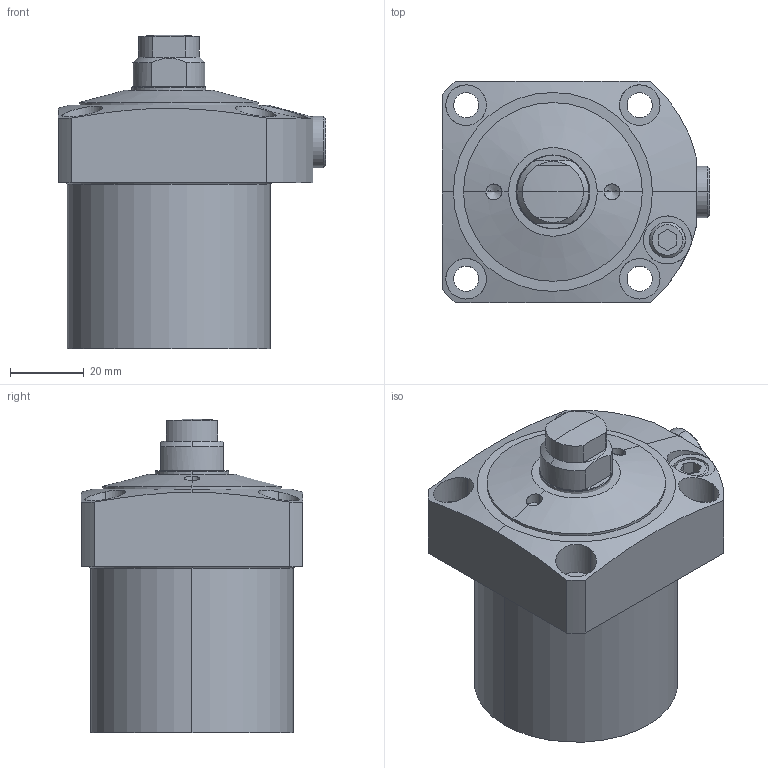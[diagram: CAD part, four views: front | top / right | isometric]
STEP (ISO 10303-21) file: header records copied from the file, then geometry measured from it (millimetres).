
FILE_DESCRIPTION(/* description */ (''),/* implementation_level */ '2;1');
FILE_NAME(/* name */ 'KFSC55.stp',/* time_stamp */ '2022-11-16T16:34:55+08:00',/* author */ (''),/* organization */ (''),/* preprocessor_version */ 'ST-DEVELOPER v16.7',/* originating_system */ 'SIEMENS PLM Software NX 12.0',/* authorisation */ '');
FILE_SCHEMA (('AP203_CONFIGURATION_CONTROLLED_3D_DESIGN_OF_MECHANICAL_PARTS_AND_ASSEMBLIES_MIM_LF { 1 0 10303 403 2 1 2}'));
Length unit declared in the file: millimetre
Products named in the file (5): KFSC55-04; KFSC55-03; KFSC55-02; KFSC55-01; LC0552-Cx_step
Assembly tree (4 placements, depth 2):
  LC0552-Cx_step
    KFSC55-01
    KFSC55-02
    KFSC55-03
    KFSC55-04
Bounding box: 72.5 x 60 x 85 mm (x, y, z)
Volume: 193687.2 mm3; surface area: 25784.3 mm2
Topology: 4 solids, 4 shells, 119 faces, 268 edges, 168 vertices
Faces by surface type: cylinder 51, plane 44, cone 20, torus 2, sphere 2
Entity records: 4080 total; most frequent: CARTESIAN_POINT 801, DIRECTION 606, ORIENTED_EDGE 528, EDGE_CURVE 264, AXIS2_PLACEMENT_3D 241, VERTEX_POINT 168, EDGE_LOOP 142, LINE 124
